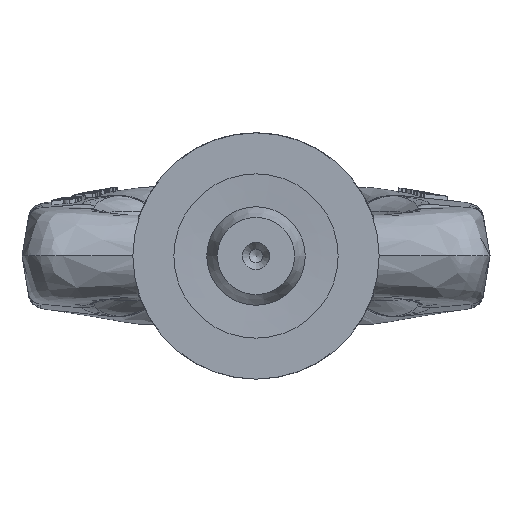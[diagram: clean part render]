
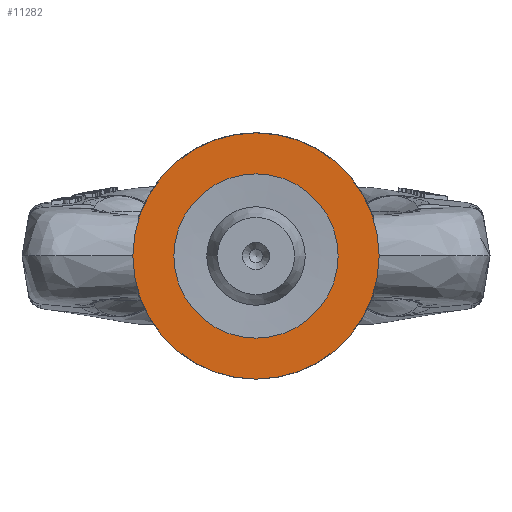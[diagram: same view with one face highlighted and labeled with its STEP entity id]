
A CAD part, front view. The second image highlights one B-rep face of the part: STEP entity #11282.
In plain terms, the highlighted planar face has unit normal (0, -1, 0) as drawn and (0, 0, -1) by its records, which use the part's own axes.
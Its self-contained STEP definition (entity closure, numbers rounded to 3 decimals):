
#252=FACE_BOUND('',#2315,.T.);
#636=CIRCLE('',#12028,15.);
#643=CIRCLE('',#12042,10.);
#906=PLANE('',#12045);
#1572=FACE_OUTER_BOUND('',#2314,.T.);
#2314=EDGE_LOOP('',(#10235));
#2315=EDGE_LOOP('',(#10236));
#5182=VERTEX_POINT('',#42154);
#5189=VERTEX_POINT('',#42175);
#6865=EDGE_CURVE('',#5182,#5182,#636,.T.);
#6872=EDGE_CURVE('',#5189,#5189,#643,.T.);
#10235=ORIENTED_EDGE('',*,*,#6865,.T.);
#10236=ORIENTED_EDGE('',*,*,#6872,.F.);
#11282=ADVANCED_FACE('',(#1572,#252),#906,.F.);
#12028=AXIS2_PLACEMENT_3D('',#42155,#14019,#14020);
#12042=AXIS2_PLACEMENT_3D('',#42176,#14047,#14048);
#12045=AXIS2_PLACEMENT_3D('',#42180,#14053,#14054);
#14019=DIRECTION('center_axis',(0.,0.,-1.));
#14020=DIRECTION('ref_axis',(-1.,0.,0.));
#14047=DIRECTION('center_axis',(0.,0.,-1.));
#14048=DIRECTION('ref_axis',(-1.,0.,0.));
#14053=DIRECTION('center_axis',(0.,0.,1.));
#14054=DIRECTION('ref_axis',(1.,0.,0.));
#42154=CARTESIAN_POINT('',(15.,0.,0.));
#42155=CARTESIAN_POINT('Origin',(0.,0.,0.));
#42175=CARTESIAN_POINT('',(10.,0.,0.));
#42176=CARTESIAN_POINT('Origin',(0.,0.,0.));
#42180=CARTESIAN_POINT('Origin',(0.,0.,0.));
